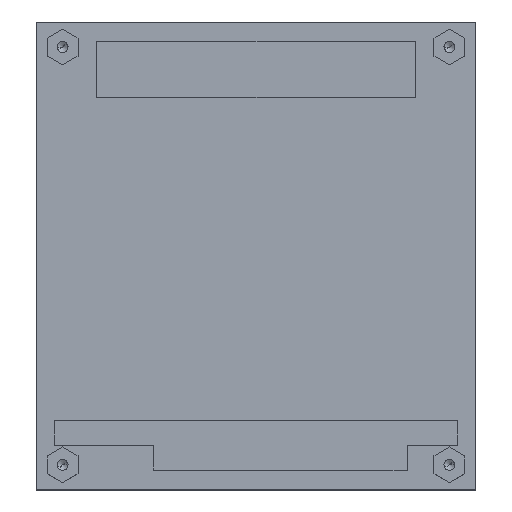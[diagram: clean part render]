
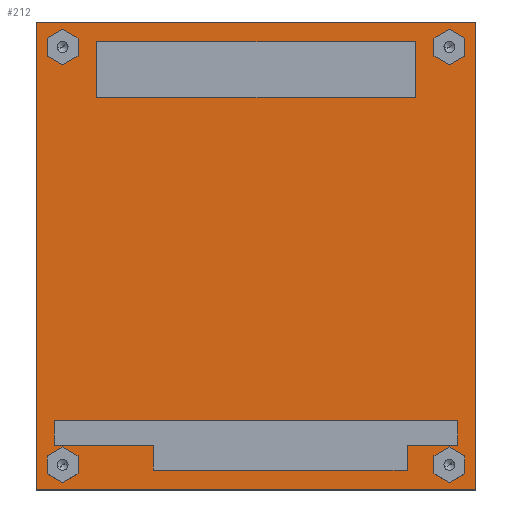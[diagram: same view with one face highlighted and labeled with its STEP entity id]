
A CAD part, top view. The second image highlights one B-rep face of the part: STEP entity #212.
In plain terms, the highlighted planar face has unit normal (0, 0, 1).
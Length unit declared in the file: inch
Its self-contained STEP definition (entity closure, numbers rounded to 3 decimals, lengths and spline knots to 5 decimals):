
#199 = FACE_BOUND ( 'NONE', #2273, .T. ) ;
#210 = ORIENTED_EDGE ( 'NONE', *, *, #5766, .F. ) ;
#212 = ADVANCED_FACE ( 'NONE', ( #199, #3205, #2682, #4613, #6217 ), #648, .T. ) ;
#217 = CIRCLE ( 'NONE', #1774, 0.049 ) ;
#230 = AXIS2_PLACEMENT_3D ( 'NONE', #796, #3893, #1289 ) ;
#303 = EDGE_LOOP ( 'NONE', ( #2801, #4951 ) ) ;
#366 = ORIENTED_EDGE ( 'NONE', *, *, #2521, .F. ) ;
#402 = DIRECTION ( 'NONE',  ( 1., 0., 0. ) ) ;
#500 = CARTESIAN_POINT ( 'NONE',  ( -1.6115, -1.6875, 0.0675 ) ) ;
#572 = EDGE_CURVE ( 'NONE', #6152, #3072, #1519, .T. ) ;
#579 = DIRECTION ( 'NONE',  ( 1., 0., 0. ) ) ;
#648 = PLANE ( 'NONE',  #3117 ) ;
#790 = CARTESIAN_POINT ( 'NONE',  ( -1.5135, -1.6875, 0.0675 ) ) ;
#796 = CARTESIAN_POINT ( 'NONE',  ( 1.5625, -1.6875, 0.0675 ) ) ;
#797 = VECTOR ( 'NONE', #1408, 39.37008 ) ;
#855 = CIRCLE ( 'NONE', #965, 0.049 ) ;
#954 = EDGE_CURVE ( 'NONE', #6377, #3204, #5914, .T. ) ;
#965 = AXIS2_PLACEMENT_3D ( 'NONE', #5676, #4691, #5606 ) ;
#1017 = CIRCLE ( 'NONE', #1115, 0.049 ) ;
#1045 = DIRECTION ( 'NONE',  ( 0., 0., 1. ) ) ;
#1115 = AXIS2_PLACEMENT_3D ( 'NONE', #5222, #5138, #4248 ) ;
#1289 = DIRECTION ( 'NONE',  ( 1., 0., 0. ) ) ;
#1321 = VERTEX_POINT ( 'NONE', #6403 ) ;
#1365 = DIRECTION ( 'NONE',  ( -1., 0., 0. ) ) ;
#1376 = CARTESIAN_POINT ( 'NONE',  ( 1.6115, 1.6875, 0.0675 ) ) ;
#1400 = VECTOR ( 'NONE', #4985, 39.37008 ) ;
#1408 = DIRECTION ( 'NONE',  ( 0., 1., 0. ) ) ;
#1468 = VECTOR ( 'NONE', #1365, 39.37008 ) ;
#1519 = LINE ( 'NONE', #5418, #1400 ) ;
#1545 = DIRECTION ( 'NONE',  ( 0., 0., 1. ) ) ;
#1619 = DIRECTION ( 'NONE',  ( 1., 0., 0. ) ) ;
#1684 = VERTEX_POINT ( 'NONE', #4050 ) ;
#1692 = EDGE_CURVE ( 'NONE', #4247, #2788, #5747, .T. ) ;
#1702 = ORIENTED_EDGE ( 'NONE', *, *, #5307, .F. ) ;
#1729 = CARTESIAN_POINT ( 'NONE',  ( 0., 0., 0.0675 ) ) ;
#1774 = AXIS2_PLACEMENT_3D ( 'NONE', #5596, #4022, #579 ) ;
#1845 = LINE ( 'NONE', #1880, #5337 ) ;
#1880 = CARTESIAN_POINT ( 'NONE',  ( -1.775, -1.89, 0.0675 ) ) ;
#1944 = ORIENTED_EDGE ( 'NONE', *, *, #954, .T. ) ;
#1965 = DIRECTION ( 'NONE',  ( 1., 0., 0. ) ) ;
#2078 = CARTESIAN_POINT ( 'NONE',  ( 1.775, -1.89, 0.0675 ) ) ;
#2131 = DIRECTION ( 'NONE',  ( 1., 0., 0. ) ) ;
#2208 = ORIENTED_EDGE ( 'NONE', *, *, #3554, .T. ) ;
#2273 = EDGE_LOOP ( 'NONE', ( #210, #1702 ) ) ;
#2297 = AXIS2_PLACEMENT_3D ( 'NONE', #5883, #2493, #402 ) ;
#2365 = DIRECTION ( 'NONE',  ( 1., 0., 0. ) ) ;
#2395 = EDGE_CURVE ( 'NONE', #2788, #4247, #217, .T. ) ;
#2434 = VERTEX_POINT ( 'NONE', #4657 ) ;
#2465 = CARTESIAN_POINT ( 'NONE',  ( 1.5625, 1.6875, 0.0675 ) ) ;
#2493 = DIRECTION ( 'NONE',  ( 0., 0., 1. ) ) ;
#2521 = EDGE_CURVE ( 'NONE', #5739, #3655, #5872, .T. ) ;
#2682 = FACE_BOUND ( 'NONE', #3324, .T. ) ;
#2765 = EDGE_CURVE ( 'NONE', #3204, #6152, #2954, .T. ) ;
#2788 = VERTEX_POINT ( 'NONE', #500 ) ;
#2801 = ORIENTED_EDGE ( 'NONE', *, *, #3853, .F. ) ;
#2954 = LINE ( 'NONE', #2993, #1468 ) ;
#2993 = CARTESIAN_POINT ( 'NONE',  ( -1.775, 1.89, 0.0675 ) ) ;
#3047 = CARTESIAN_POINT ( 'NONE',  ( 1.6115, -1.6875, 0.0675 ) ) ;
#3072 = VERTEX_POINT ( 'NONE', #6445 ) ;
#3083 = AXIS2_PLACEMENT_3D ( 'NONE', #2465, #4453, #1965 ) ;
#3084 = CARTESIAN_POINT ( 'NONE',  ( 1.5135, -1.6875, 0.0675 ) ) ;
#3117 = AXIS2_PLACEMENT_3D ( 'NONE', #1729, #3631, #2131 ) ;
#3204 = VERTEX_POINT ( 'NONE', #4063 ) ;
#3205 = FACE_BOUND ( 'NONE', #4733, .T. ) ;
#3324 = EDGE_LOOP ( 'NONE', ( #3898, #366 ) ) ;
#3340 = EDGE_CURVE ( 'NONE', #3655, #5739, #5021, .T. ) ;
#3477 = AXIS2_PLACEMENT_3D ( 'NONE', #4109, #1545, #1619 ) ;
#3554 = EDGE_CURVE ( 'NONE', #3072, #6377, #1845, .T. ) ;
#3631 = DIRECTION ( 'NONE',  ( 0., 0., 1. ) ) ;
#3655 = VERTEX_POINT ( 'NONE', #3047 ) ;
#3777 = ORIENTED_EDGE ( 'NONE', *, *, #572, .T. ) ;
#3853 = EDGE_CURVE ( 'NONE', #5576, #1321, #5038, .T. ) ;
#3855 = ORIENTED_EDGE ( 'NONE', *, *, #2765, .T. ) ;
#3864 = AXIS2_PLACEMENT_3D ( 'NONE', #5556, #1045, #5484 ) ;
#3870 = ORIENTED_EDGE ( 'NONE', *, *, #1692, .F. ) ;
#3893 = DIRECTION ( 'NONE',  ( 0., 0., 1. ) ) ;
#3898 = ORIENTED_EDGE ( 'NONE', *, *, #3340, .F. ) ;
#4022 = DIRECTION ( 'NONE',  ( 0., 0., 1. ) ) ;
#4050 = CARTESIAN_POINT ( 'NONE',  ( -1.6115, 1.6875, 0.0675 ) ) ;
#4063 = CARTESIAN_POINT ( 'NONE',  ( 1.775, 1.89, 0.0675 ) ) ;
#4109 = CARTESIAN_POINT ( 'NONE',  ( -1.5625, 1.6875, 0.0675 ) ) ;
#4247 = VERTEX_POINT ( 'NONE', #790 ) ;
#4248 = DIRECTION ( 'NONE',  ( 1., 0., 0. ) ) ;
#4453 = DIRECTION ( 'NONE',  ( 0., 0., 1. ) ) ;
#4590 = EDGE_CURVE ( 'NONE', #1321, #5576, #855, .T. ) ;
#4607 = CIRCLE ( 'NONE', #3477, 0.049 ) ;
#4613 = FACE_BOUND ( 'NONE', #303, .T. ) ;
#4657 = CARTESIAN_POINT ( 'NONE',  ( -1.5135, 1.6875, 0.0675 ) ) ;
#4691 = DIRECTION ( 'NONE',  ( 0., 0., 1. ) ) ;
#4733 = EDGE_LOOP ( 'NONE', ( #3870, #6153 ) ) ;
#4833 = CARTESIAN_POINT ( 'NONE',  ( -1.775, 1.89, 0.0675 ) ) ;
#4951 = ORIENTED_EDGE ( 'NONE', *, *, #4590, .F. ) ;
#4985 = DIRECTION ( 'NONE',  ( 0., -1., 0. ) ) ;
#5021 = CIRCLE ( 'NONE', #230, 0.049 ) ;
#5038 = CIRCLE ( 'NONE', #3083, 0.049 ) ;
#5138 = DIRECTION ( 'NONE',  ( 0., 0., 1. ) ) ;
#5222 = CARTESIAN_POINT ( 'NONE',  ( -1.5625, 1.6875, 0.0675 ) ) ;
#5307 = EDGE_CURVE ( 'NONE', #1684, #2434, #1017, .T. ) ;
#5337 = VECTOR ( 'NONE', #2365, 39.37008 ) ;
#5418 = CARTESIAN_POINT ( 'NONE',  ( -1.775, 1.89, 0.0675 ) ) ;
#5484 = DIRECTION ( 'NONE',  ( 1., 0., 0. ) ) ;
#5556 = CARTESIAN_POINT ( 'NONE',  ( -1.5625, -1.6875, 0.0675 ) ) ;
#5576 = VERTEX_POINT ( 'NONE', #1376 ) ;
#5596 = CARTESIAN_POINT ( 'NONE',  ( -1.5625, -1.6875, 0.0675 ) ) ;
#5606 = DIRECTION ( 'NONE',  ( 1., 0., 0. ) ) ;
#5676 = CARTESIAN_POINT ( 'NONE',  ( 1.5625, 1.6875, 0.0675 ) ) ;
#5739 = VERTEX_POINT ( 'NONE', #3084 ) ;
#5747 = CIRCLE ( 'NONE', #3864, 0.049 ) ;
#5766 = EDGE_CURVE ( 'NONE', #2434, #1684, #4607, .T. ) ;
#5839 = EDGE_LOOP ( 'NONE', ( #1944, #3855, #3777, #2208 ) ) ;
#5872 = CIRCLE ( 'NONE', #2297, 0.049 ) ;
#5883 = CARTESIAN_POINT ( 'NONE',  ( 1.5625, -1.6875, 0.0675 ) ) ;
#5914 = LINE ( 'NONE', #6354, #797 ) ;
#6152 = VERTEX_POINT ( 'NONE', #4833 ) ;
#6153 = ORIENTED_EDGE ( 'NONE', *, *, #2395, .F. ) ;
#6217 = FACE_OUTER_BOUND ( 'NONE', #5839, .T. ) ;
#6354 = CARTESIAN_POINT ( 'NONE',  ( 1.775, 1.89, 0.0675 ) ) ;
#6377 = VERTEX_POINT ( 'NONE', #2078 ) ;
#6403 = CARTESIAN_POINT ( 'NONE',  ( 1.5135, 1.6875, 0.0675 ) ) ;
#6445 = CARTESIAN_POINT ( 'NONE',  ( -1.775, -1.89, 0.0675 ) ) ;
